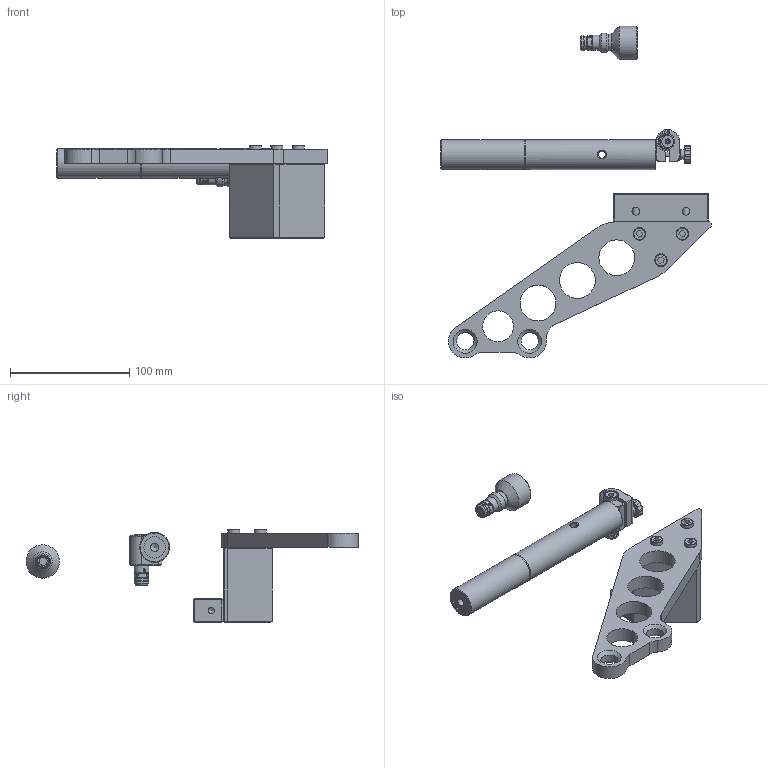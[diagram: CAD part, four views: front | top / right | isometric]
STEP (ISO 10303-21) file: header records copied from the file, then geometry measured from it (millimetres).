
FILE_DESCRIPTION(/* description */ (''),/* implementation_level */ '2;1');
FILE_NAME(/* name */ 'LA-8014-0551 LATHE ADAPTOR KITt.stp',/* time_stamp */ '2012-01-03T09:24:16+00:00',/* author */ (''),/* organization */ (''),/* preprocessor_version */ 'ST-DEVELOPER v11',/* originating_system */ 'SIEMENS PLM Software NX 7.5',/* authorisation */ '');
FILE_SCHEMA (('CONFIG_CONTROL_DESIGN'));
Length unit declared in the file: millimetre
Products named in the file (1): ad13AC9A7oyb
Bounding box: 226.31 x 278.2 x 78 mm (x, y, z)
Volume: 357521.6 mm3; surface area: 76934.3 mm2
Topology: 4 solids, 5 shells, 752 faces, 1977 edges, 1299 vertices
Faces by surface type: plane 485, cylinder 126, extrusion 71, cone 58, sphere 7, torus 5
Full cylindrical faces by diameter (mm): 1.7 x1, 2 x2, 2.1 x8, 2.15 x2, 2.6 x1, 3.838 x1, 4.3 x3, 4.4 x1, 4.5 x1, 5.2 x2, 5.795 x2, 6 x1, 6.2 x1, 6.5 x8, 6.75 x2, 6.9 x1, 8 x1, 8.85 x1, 9.5 x2, 9.63 x2, 10 x6, 10.5 x7, 11.5 x2, 11.97 x1, 12 x1, 12.025 x1, 12.5 x6, 14 x1, 14.376 x2, 16 x1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
Entity records: 22752 total; most frequent: CARTESIAN_POINT 5255, ORIENTED_EDGE 3484, DIRECTION 3307, EDGE_CURVE 1742, VECTOR 1317, LINE 1246, VERTEX_POINT 1223, AXIS2_PLACEMENT_3D 995
